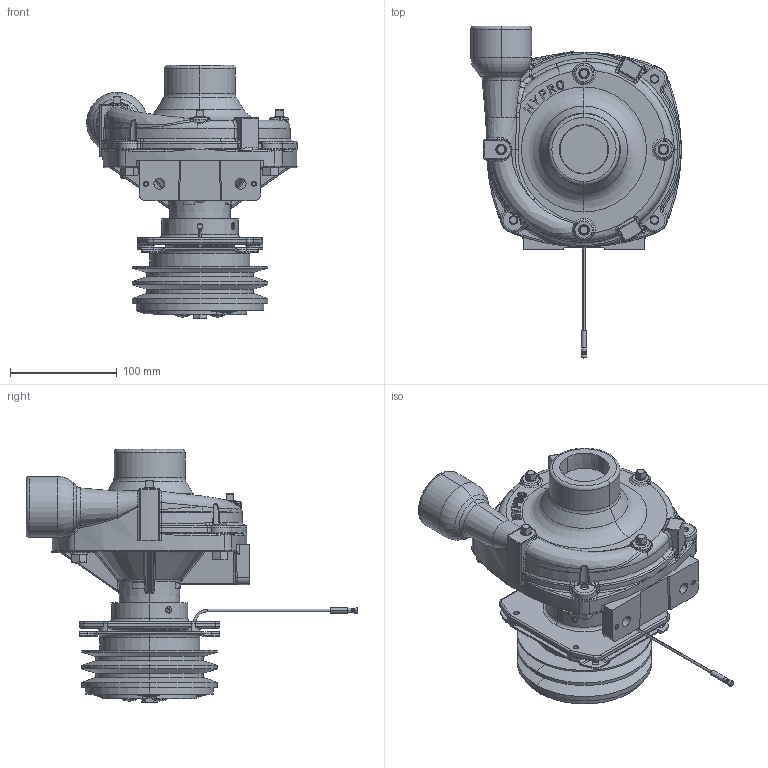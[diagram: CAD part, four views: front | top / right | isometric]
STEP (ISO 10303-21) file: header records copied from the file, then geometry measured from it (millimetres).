
FILE_DESCRIPTION (( 'STEP AP214' ), '1' );
FILE_NAME ('9263C-C.STEP', '2020-06-09T17:58:20', ( '' ), ( '' ), 'SwSTEP 2.0', 'SolidWorks 2017', '' );
FILE_SCHEMA (( 'AUTOMOTIVE_DESIGN' ));
Length unit declared in the file: inch
Products named in the file (2): 9263C-C
Bounding box: 197.7 x 311.38 x 237.71 mm (x, y, z)
Volume: 2454336.2 mm3; surface area: 254951.2 mm2
Topology: 1 solids, 46 shells, 3205 faces, 8233 edges, 5220 vertices
Faces by surface type: plane 1314, bspline 888, cylinder 419, cone 377, torus 195, sphere 12
Entity records: 184340 total; most frequent: CARTESIAN_POINT 70311, ORIENTED_EDGE 16418, DIRECTION 12696, EDGE_CURVE 8209, VERTEX_POINT 5220, LINE 4326, VECTOR 4326, AXIS2_PLACEMENT_3D 4185
